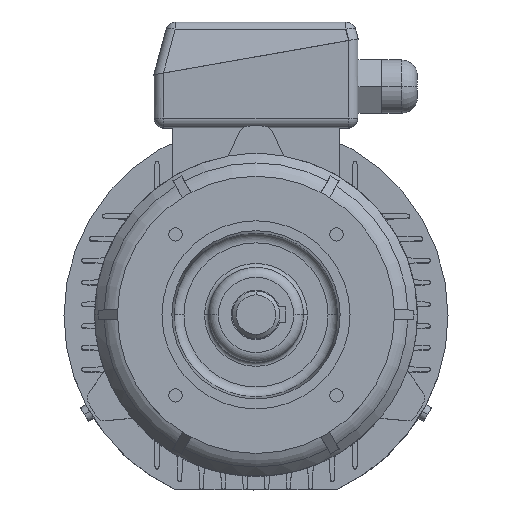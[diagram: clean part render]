
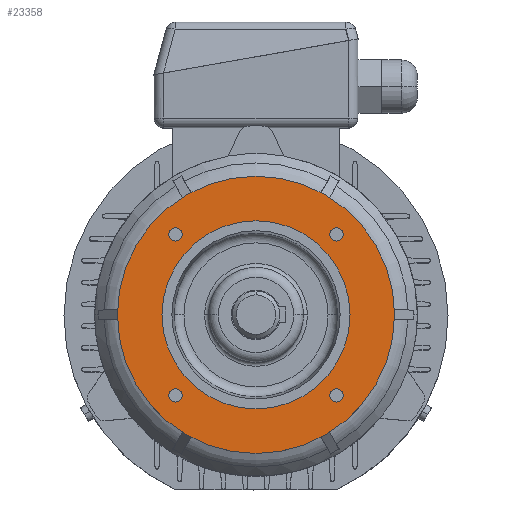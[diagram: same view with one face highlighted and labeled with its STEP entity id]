
A CAD part, top view. The second image highlights one B-rep face of the part: STEP entity #23358.
In plain terms, the highlighted planar face has unit normal (0, 0, 1).
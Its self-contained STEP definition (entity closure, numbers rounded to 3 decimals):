
#16418 = CIRCLE ( 'NONE', #16419, 3.4 ) ;
#16419 = AXIS2_PLACEMENT_3D ( 'NONE', #16420, #16421, #16422 ) ;
#16420 = CARTESIAN_POINT ( 'NONE',  ( -40.659, 40.659, 40. ) ) ;
#16421 = DIRECTION ( 'NONE',  ( 0., 0., 1. ) ) ;
#16422 = DIRECTION ( 'NONE',  ( 1., 0., 0. ) ) ;
#181 = CARTESIAN_POINT ( 'NONE',  ( 37.259, -40.659, 40. ) ) ;
#182 = CARTESIAN_POINT ( 'NONE',  ( -70., 0., 40. ) ) ;
#16794 = EDGE_CURVE ( 'NONE', #10086, #19936, #9657, .T. ) ;
#422 = CIRCLE ( 'NONE', #423, 70. ) ;
#423 = AXIS2_PLACEMENT_3D ( 'NONE', #424, #425, #426 ) ;
#424 = CARTESIAN_POINT ( 'NONE',  ( 0., 0., 40. ) ) ;
#425 = DIRECTION ( 'NONE',  ( 0., 0., -1. ) ) ;
#426 = DIRECTION ( 'NONE',  ( -1., 0., 0. ) ) ;
#473 = EDGE_CURVE ( 'NONE', #4067, #19858, #16195, .T. ) ;
#559 = VERTEX_POINT ( 'NONE', #16287 ) ;
#932 = ORIENTED_EDGE ( 'NONE', *, *, #473, .F. ) ;
#17571 = ORIENTED_EDGE ( 'NONE', *, *, #16794, .F. ) ;
#1559 = EDGE_LOOP ( 'NONE', ( #932, #25131 ) ) ;
#1868 = ORIENTED_EDGE ( 'NONE', *, *, #2724, .F. ) ;
#18676 = EDGE_LOOP ( 'NONE', ( #17571, #3818 ) ) ;
#2455 = VERTEX_POINT ( 'NONE', #19801 ) ;
#2497 = EDGE_CURVE ( 'NONE', #2455, #7330, #19873, .T. ) ;
#2724 = EDGE_CURVE ( 'NONE', #7330, #2455, #20436, .T. ) ;
#2735 = CARTESIAN_POINT ( 'NONE',  ( 47.5, 0., 40. ) ) ;
#19201 = ORIENTED_EDGE ( 'NONE', *, *, #11570, .F. ) ;
#2961 = ORIENTED_EDGE ( 'NONE', *, *, #2497, .F. ) ;
#3101 = CARTESIAN_POINT ( 'NONE',  ( -37.259, -40.659, 40. ) ) ;
#3324 = CIRCLE ( 'NONE', #3325, 3.4 ) ;
#3325 = AXIS2_PLACEMENT_3D ( 'NONE', #3326, #3327, #3328 ) ;
#3326 = CARTESIAN_POINT ( 'NONE',  ( -40.659, -40.659, 40. ) ) ;
#3327 = DIRECTION ( 'NONE',  ( 0., 0., 1. ) ) ;
#3328 = DIRECTION ( 'NONE',  ( 1., 0., 0. ) ) ;
#19801 = CARTESIAN_POINT ( 'NONE',  ( 44.059, -40.659, 40. ) ) ;
#19806 = CIRCLE ( 'NONE', #19807, 3.4 ) ;
#19807 = AXIS2_PLACEMENT_3D ( 'NONE', #19808, #19809, #19810 ) ;
#19808 = CARTESIAN_POINT ( 'NONE',  ( 40.659, 40.659, 40. ) ) ;
#19809 = DIRECTION ( 'NONE',  ( 0., 0., 1. ) ) ;
#19810 = DIRECTION ( 'NONE',  ( 1., 0., 0. ) ) ;
#19858 = VERTEX_POINT ( 'NONE', #11437 ) ;
#19873 = CIRCLE ( 'NONE', #19874, 3.4 ) ;
#19874 = AXIS2_PLACEMENT_3D ( 'NONE', #19875, #19876, #19877 ) ;
#19875 = CARTESIAN_POINT ( 'NONE',  ( 40.659, -40.659, 40. ) ) ;
#19876 = DIRECTION ( 'NONE',  ( 0., 0., 1. ) ) ;
#19877 = DIRECTION ( 'NONE',  ( 1., 0., 0. ) ) ;
#19936 = VERTEX_POINT ( 'NONE', #11442 ) ;
#3594 = EDGE_LOOP ( 'NONE', ( #2961, #1868 ) ) ;
#3818 = ORIENTED_EDGE ( 'NONE', *, *, #10373, .F. ) ;
#20299 = ORIENTED_EDGE ( 'NONE', *, *, #7598, .F. ) ;
#3930 = VERTEX_POINT ( 'NONE', #21926 ) ;
#20436 = CIRCLE ( 'NONE', #20437, 3.4 ) ;
#20437 = AXIS2_PLACEMENT_3D ( 'NONE', #20438, #20439, #20440 ) ;
#20438 = CARTESIAN_POINT ( 'NONE',  ( 40.659, -40.659, 40. ) ) ;
#20439 = DIRECTION ( 'NONE',  ( 0., 0., 1. ) ) ;
#20440 = DIRECTION ( 'NONE',  ( 1., 0., 0. ) ) ;
#4067 = VERTEX_POINT ( 'NONE', #22202 ) ;
#20979 = EDGE_LOOP ( 'NONE', ( #20299, #19201 ) ) ;
#4845 = CIRCLE ( 'NONE', #4846, 70. ) ;
#4846 = AXIS2_PLACEMENT_3D ( 'NONE', #4847, #4848, #4849 ) ;
#4847 = CARTESIAN_POINT ( 'NONE',  ( 0., 0., 40. ) ) ;
#4848 = DIRECTION ( 'NONE',  ( 0., 0., -1. ) ) ;
#4849 = DIRECTION ( 'NONE',  ( -1., 0., 0. ) ) ;
#21278 = EDGE_CURVE ( 'NONE', #9637, #21299, #13180, .T. ) ;
#21299 = VERTEX_POINT ( 'NONE', #13202 ) ;
#21748 = ORIENTED_EDGE ( 'NONE', *, *, #21278, .T. ) ;
#21926 = CARTESIAN_POINT ( 'NONE',  ( -37.259, 40.659, 40. ) ) ;
#22163 = EDGE_CURVE ( 'NONE', #559, #3930, #14227, .T. ) ;
#22202 = CARTESIAN_POINT ( 'NONE',  ( 44.059, 40.659, 40. ) ) ;
#22406 = ORIENTED_EDGE ( 'NONE', *, *, #22424, .T. ) ;
#22424 = EDGE_CURVE ( 'NONE', #21299, #9637, #14511, .T. ) ;
#23045 = EDGE_LOOP ( 'NONE', ( #22406, #21748 ) ) ;
#23358 = ADVANCED_FACE ( 'NONE', ( #15742, #15743, #15744, #15745, #15778, #15779 ), #15780, .T. ) ;
#7057 = VERTEX_POINT ( 'NONE', #25465 ) ;
#7330 = VERTEX_POINT ( 'NONE', #181 ) ;
#7331 = VERTEX_POINT ( 'NONE', #182 ) ;
#23721 = EDGE_CURVE ( 'NONE', #3930, #559, #16418, .T. ) ;
#7598 = EDGE_CURVE ( 'NONE', #7331, #7057, #422, .T. ) ;
#24182 = ORIENTED_EDGE ( 'NONE', *, *, #23721, .F. ) ;
#24836 = EDGE_LOOP ( 'NONE', ( #24182, #9198 ) ) ;
#25131 = ORIENTED_EDGE ( 'NONE', *, *, #25179, .F. ) ;
#25179 = EDGE_CURVE ( 'NONE', #19858, #4067, #19806, .T. ) ;
#25465 = CARTESIAN_POINT ( 'NONE',  ( 70., 0., 40. ) ) ;
#9198 = ORIENTED_EDGE ( 'NONE', *, *, #22163, .F. ) ;
#9637 = VERTEX_POINT ( 'NONE', #2735 ) ;
#9657 = CIRCLE ( 'NONE', #9658, 3.4 ) ;
#9658 = AXIS2_PLACEMENT_3D ( 'NONE', #9659, #9660, #9661 ) ;
#9659 = CARTESIAN_POINT ( 'NONE',  ( -40.659, -40.659, 40. ) ) ;
#9660 = DIRECTION ( 'NONE',  ( 0., 0., 1. ) ) ;
#9661 = DIRECTION ( 'NONE',  ( 1., 0., 0. ) ) ;
#10086 = VERTEX_POINT ( 'NONE', #3101 ) ;
#10373 = EDGE_CURVE ( 'NONE', #19936, #10086, #3324, .T. ) ;
#11437 = CARTESIAN_POINT ( 'NONE',  ( 37.259, 40.659, 40. ) ) ;
#11442 = CARTESIAN_POINT ( 'NONE',  ( -44.059, -40.659, 40. ) ) ;
#11570 = EDGE_CURVE ( 'NONE', #7057, #7331, #4845, .T. ) ;
#13180 = CIRCLE ( 'NONE', #13190, 47.5 ) ;
#13190 = AXIS2_PLACEMENT_3D ( 'NONE', #13191, #13192, #13193 ) ;
#13191 = CARTESIAN_POINT ( 'NONE',  ( 0., 0., 40. ) ) ;
#13192 = DIRECTION ( 'NONE',  ( 0., 0., -1. ) ) ;
#13193 = DIRECTION ( 'NONE',  ( -1., 0., 0. ) ) ;
#13202 = CARTESIAN_POINT ( 'NONE',  ( -47.5, 0., 40. ) ) ;
#14227 = CIRCLE ( 'NONE', #14228, 3.4 ) ;
#14228 = AXIS2_PLACEMENT_3D ( 'NONE', #14229, #14240, #14241 ) ;
#14229 = CARTESIAN_POINT ( 'NONE',  ( -40.659, 40.659, 40. ) ) ;
#14240 = DIRECTION ( 'NONE',  ( 0., 0., 1. ) ) ;
#14241 = DIRECTION ( 'NONE',  ( 1., 0., 0. ) ) ;
#14511 = CIRCLE ( 'NONE', #14512, 47.5 ) ;
#14512 = AXIS2_PLACEMENT_3D ( 'NONE', #14513, #14514, #14515 ) ;
#14513 = CARTESIAN_POINT ( 'NONE',  ( 0., 0., 40. ) ) ;
#14514 = DIRECTION ( 'NONE',  ( 0., 0., -1. ) ) ;
#14515 = DIRECTION ( 'NONE',  ( -1., 0., 0. ) ) ;
#15742 = FACE_BOUND ( 'NONE', #23045, .T. ) ;
#15743 = FACE_OUTER_BOUND ( 'NONE', #20979, .T. ) ;
#15744 = FACE_BOUND ( 'NONE', #18676, .T. ) ;
#15745 = FACE_BOUND ( 'NONE', #3594, .T. ) ;
#15778 = FACE_BOUND ( 'NONE', #1559, .T. ) ;
#15779 = FACE_BOUND ( 'NONE', #24836, .T. ) ;
#15780 = PLANE ( 'NONE',  #15781 ) ;
#15781 = AXIS2_PLACEMENT_3D ( 'NONE', #15782, #15783, #15784 ) ;
#15782 = CARTESIAN_POINT ( 'NONE',  ( -70., 0., 40. ) ) ;
#15783 = DIRECTION ( 'NONE',  ( 0., 0., 1. ) ) ;
#15784 = DIRECTION ( 'NONE',  ( 1., 0., 0. ) ) ;
#16195 = CIRCLE ( 'NONE', #16196, 3.4 ) ;
#16196 = AXIS2_PLACEMENT_3D ( 'NONE', #16197, #16198, #16199 ) ;
#16197 = CARTESIAN_POINT ( 'NONE',  ( 40.659, 40.659, 40. ) ) ;
#16198 = DIRECTION ( 'NONE',  ( 0., 0., 1. ) ) ;
#16199 = DIRECTION ( 'NONE',  ( 1., 0., 0. ) ) ;
#16287 = CARTESIAN_POINT ( 'NONE',  ( -44.059, 40.659, 40. ) ) ;
